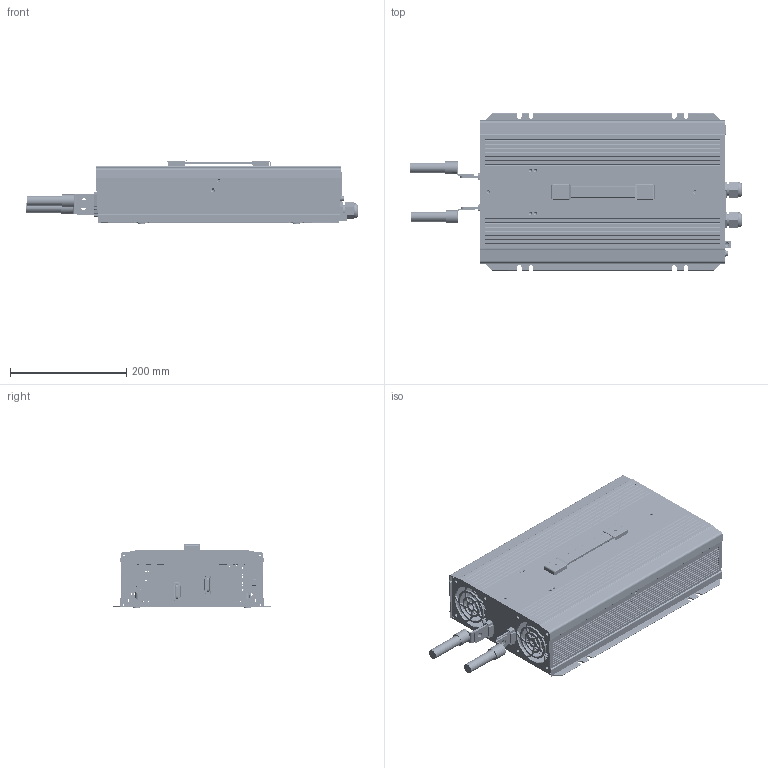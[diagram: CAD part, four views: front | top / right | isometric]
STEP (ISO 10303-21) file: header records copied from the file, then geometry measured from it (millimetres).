
FILE_DESCRIPTION(('Creo Elements/Direct Modeling STEP Export'),'2;1');
FILE_NAME('NTU-3200-CN.stp','2024-07-09T13:39:04',(''),(''),'PTC Creo Elements/Direct Modeling STEP processor for AP214 (Solid Model)','PTC Creo Elements/Direct Modeling 19.0E 27-Jun-2016 (C) Parametric Technology GmbH','');
FILE_SCHEMA(('AUTOMOTIVE_DESIGN { 1 0 10303 214 1 1 1 1 }'));
Length unit declared in the file: millimetre
Products named in the file (218): 中国插; 中国插.stp; 万国插片; P1_PRT; BREAKER; CU-1; HS-3.1; HS-3; 1HH2NTU-3200I; CU-5.1; CU-5; _S___S_O_S_JL; SZ0681; SZ068; CASE_TOP_PRT; 1HH2NTU-3200J; PCB-D; 1GG1HS-SZ908.1; 1GG1HS-SZ908; PCBA; 1xx3NTU-3200-I; HS; HS.1; PCBB; 111; PCBE; 174; PCBF; PCBG; 1GG1HS-SZ135A_.1; 1GG1HS-SZ135A_; SZ069; 77; PCBH; CU-8; PCBI; CU-9.1; CU-9; LED_1_PRT_2_1_1_1_1_1_1_PRT_16_.3; LED_1_PRT_2_1_1_1_1_1_1_PRT_16_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
Assembly tree (269 placements, depth 3):
  中国插.stp
    中国插
      中国插
  NTU-3200-CN.stp
    555_1
      555_1
    open_shell.1
      open_shell.1
    零件9
    零件8
    1HH2NTU-3200
    _S_4_X2_0192_X0__S__S_6_S___S_U
      _S_4_X2_0192_X0__S__S_6_S___S_U
    零件7
    _S_4_X2_0192_X0__S_
      _S_4_X2_0192_X0__S__S_6_S___S_U
    HS-2
      HS-2
    零件6
    1GG1HS-SZ907
      1GG1HS-SZ907
    1HH1
      1HH1
    TO220.9
      TO220.9
    TO220.8
      TO220.9
    TO220.7
      TO220.9
    TO220.6
      TO220.9
    零件5
      零件5
    TO220.5
      TO220.9
    TO220.4
      TO220.9
    TO220.3
      TO220.9
    TO220.21
      TO220.9
    TO220.20
      TO220.9
    零件5.1
    TO220.2
      TO220.9
    TO220.19
      TO220.9
    TO220.18
      TO220.9
    TO220.17
      TO220.9
    guwei1.1
      guwei1.1
    TO220.16
      TO220.9
    TO220.15
      TO220.9
    TO220.14
      TO220.9
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Bounding box: 570.16 x 270 x 108.65 mm (x, y, z)
Volume: 2430602.2 mm3; surface area: 2036444 mm2
Topology: 143 solids, 146 shells, 7047 faces, 19031 edges, 12562 vertices
Faces by surface type: plane 4324, cylinder 2341, cone 235, torus 126, bspline 16, sphere 4, extrusion 1
Entity records: 166489 total; most frequent: CARTESIAN_POINT 31596, ORIENTED_EDGE 27711, DIRECTION 25892, EDGE_CURVE 13858, VECTOR 9950, LINE 9949, VERTEX_POINT 9121, AXIS2_PLACEMENT_3D 7971
